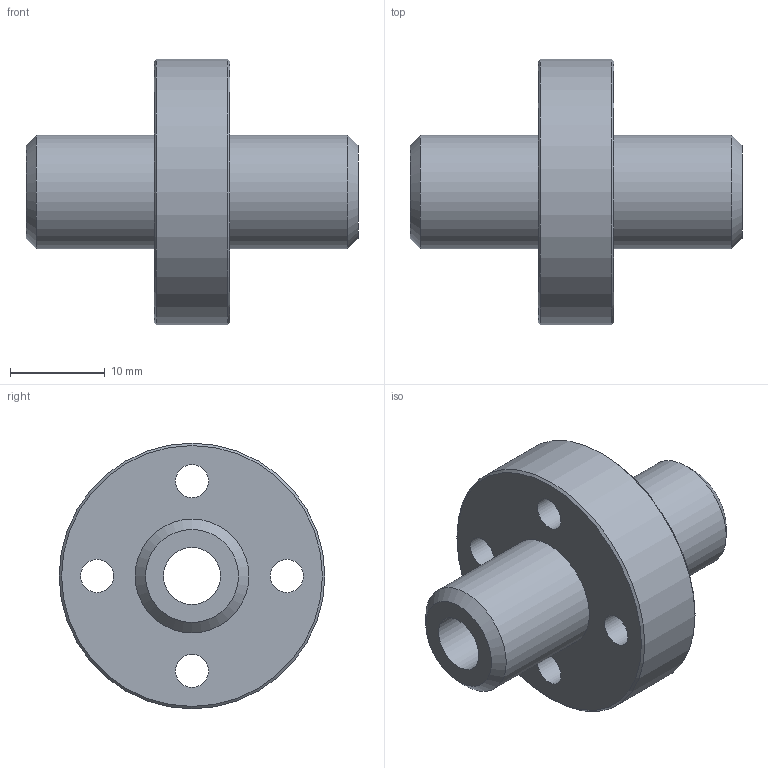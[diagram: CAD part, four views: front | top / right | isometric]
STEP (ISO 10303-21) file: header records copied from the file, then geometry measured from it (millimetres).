
FILE_DESCRIPTION(('STEP AP203'),'1');
FILE_NAME('//192.168.1.1/share/s-4 技術開発/s-4-4_CAD/s-4-4-3_見直し済み/PBC LINEAR修正済み/CFPJ/CFPJ_TOP/CFPJR/CFPJR06.step','2022-03-24T04:20:37',(' '),(' '),'Spatial InterOp 3D',' ',' ');
FILE_SCHEMA(('CONFIG_CONTROL_DESIGN'));
Length unit declared in the file: millimetre
Products named in the file (1): 1
Bounding box: 35 x 28 x 28 mm (x, y, z)
Volume: 6402.4 mm3; surface area: 3850.5 mm2
Topology: 1 solids, 1 shells, 24 faces, 49 edges, 33 vertices
Faces by surface type: cylinder 12, plane 8, cone 4
Full cylindrical faces by diameter (mm): 3.5 x4, 6 x5, 12 x2, 28 x1
Entity records: 588 total; most frequent: DIRECTION 106, CARTESIAN_POINT 81, EDGE_LOOP 56, ORIENTED_EDGE 56, AXIS2_PLACEMENT_3D 53, FACE_OUTER_BOUND 36, EDGE_CURVE 28, VERTEX_POINT 28
